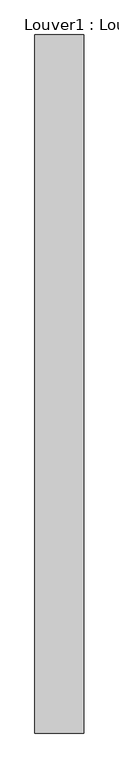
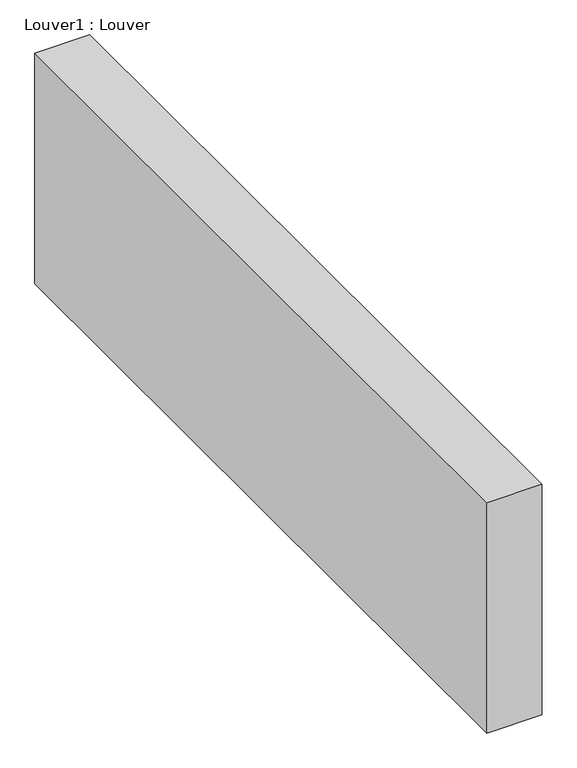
"""IFC4 building model written with IfcOpenShell, lengths in millimetres: air terminal geometry, Louver1 : Louver."""

import ifcopenshell
import ifcopenshell.guid

model = None  # the IFC model being written
_history = None  # IfcOwnerHistory: only IFC2X3 demands one
_inside = {}  # id of a spatial element -> (the spatial element, [elements in it])
_under = {}  # id of a project, library or spatial element -> (it, [spatial elements below it])
_declared = {}  # id of a project -> (the project, [libraries it declares])
_typed = {}  # id of a type object -> (the type object, [elements of that type])
_made_of = {}  # id of a material, layer set ... -> (it, [elements and type objects made of it])


def new_model(schema):
    """Start an empty IFC model of exactly this schema.

    Asked for "IFC4X3", IfcOpenShell would pick the latest addendum, in which some entities
    have other attributes; the version numbers below select the first issue.
    IFC2X3 requires an IfcOwnerHistory on every rooted entity: one is made here for all.
    """
    global model, _history
    if schema == "IFC4X3":
        model = ifcopenshell.file(schema_version=(4, 3, 0, 0))
    else:
        model = ifcopenshell.file(schema=schema)
    _inside.clear()
    _under.clear()
    _declared.clear()
    _typed.clear()
    _made_of.clear()
    _history = None
    if model.schema == "IFC2X3":
        org = make("IfcOrganization", Name="unknown")
        user = make(
            "IfcPersonAndOrganization",
            ThePerson=make("IfcPerson", FamilyName="unknown"),
            TheOrganization=org,
        )
        app = make(
            "IfcApplication",
            ApplicationDeveloper=org,
            Version="unknown",
            ApplicationFullName="unknown",
            ApplicationIdentifier="unknown",
        )
        _history = make(
            "IfcOwnerHistory",
            OwningUser=user,
            OwningApplication=app,
            ChangeAction="ADDED",
            CreationDate=0,
        )
    return model


def make(cls, **values):
    """One entity of the class cls with the attributes given. An attribute that is None is left unset."""
    return model.create_entity(
        cls, **{name: value for name, value in values.items() if value is not None}
    )


def rooted(cls, **values):
    """An entity with a GlobalId (a new one), such as an element, a storey or a relation."""
    return make(cls, GlobalId=ifcopenshell.guid.new(), OwnerHistory=_history, **values)


def si_unit(unit_type, name, prefix=None):
    """IfcSIUnit, for example si_unit("LENGTHUNIT", "METRE", prefix="MILLI")."""
    return make("IfcSIUnit", UnitType=unit_type, Prefix=prefix, Name=name)


def assignment(units):
    """IfcUnitAssignment: the units of a project."""
    return None if units is None else make("IfcUnitAssignment", Units=units)


def point(xyz):
    """IfcCartesianPoint."""
    return None if xyz is None else make("IfcCartesianPoint", Coordinates=xyz)


def direction(xyz):
    """IfcDirection."""
    return None if xyz is None else make("IfcDirection", DirectionRatios=xyz)


def frame(location, z_axis=None, x_axis=None):
    """IfcAxis2Placement3D, a coordinate frame: its origin and axes. An axis left out is left unset."""
    return make(
        "IfcAxis2Placement3D",
        Location=point(location),
        Axis=direction(z_axis),
        RefDirection=direction(x_axis),
    )


def origin():
    """The frame at (0, 0, 0) with its axes left unset."""
    return frame((0.0, 0.0, 0.0))


def place(relative_to, where):
    """IfcLocalPlacement: puts the frame where relative to a parent placement (None: the world)."""
    return make(
        "IfcLocalPlacement", PlacementRelTo=relative_to, RelativePlacement=where
    )


def context(
    kind, dimensions, precision=None, world=None, true_north=None, identifier=None
):
    """IfcGeometricRepresentationContext, for example the 3D "Model" context."""
    return make(
        "IfcGeometricRepresentationContext",
        ContextIdentifier=identifier,
        ContextType=kind,
        CoordinateSpaceDimension=dimensions,
        Precision=precision,
        WorldCoordinateSystem=world,
        TrueNorth=true_north,
    )


def project(units=None, contexts=None):
    """IfcProject with its units and contexts."""
    return rooted(
        "IfcProject",
        Name="project",
        RepresentationContexts=contexts,
        UnitsInContext=assignment(units),
    )


def spatial(cls, under=None, at=None, **own):
    """A site, building, storey or space (cls), placed at a placement, below another one or the project."""
    s = rooted(cls, ObjectPlacement=at, **own)
    if under is not None:
        _under.setdefault(under.id(), (under, []))[1].append(s)
    return s


def polyline(points):
    """IfcPolyline through the points."""
    return make("IfcPolyline", Points=[point(p) for p in points])


def outline(outer, holes=None, kind="AREA"):
    """IfcArbitraryClosedProfileDef: a profile drawn as a closed curve; with holes, ...WithVoids."""
    if holes is None:
        return make("IfcArbitraryClosedProfileDef", ProfileType=kind, OuterCurve=outer)
    return make(
        "IfcArbitraryProfileDefWithVoids",
        ProfileType=kind,
        OuterCurve=outer,
        InnerCurves=holes,
    )


def extrude(swept, where, along, depth):
    """IfcExtrudedAreaSolid: the profile swept, set in the frame where, extruded along a direction by depth."""
    return make(
        "IfcExtrudedAreaSolid",
        SweptArea=swept,
        Position=where,
        ExtrudedDirection=direction(along),
        Depth=depth,
    )


def shape(context_of_items, identifier, shape_type, items):
    """IfcShapeRepresentation: the items that make up one representation, for example the "Body"."""
    return make(
        "IfcShapeRepresentation",
        ContextOfItems=context_of_items,
        RepresentationIdentifier=identifier,
        RepresentationType=shape_type,
        Items=items,
    )


def source(mapping_origin, context_of_items, identifier, shape_type, items):
    """IfcRepresentationMap: a shape defined once, which mapped items show again and again."""
    return make(
        "IfcRepresentationMap",
        MappingOrigin=mapping_origin,
        MappedRepresentation=shape(context_of_items, identifier, shape_type, items),
    )


def transform(
    local_origin,
    x_axis=None,
    y_axis=None,
    z_axis=None,
    scale=None,
    scale2=None,
    scale3=None,
    uniform=True,
):
    """IfcCartesianTransformationOperator3D, or its non-uniform kind. x_axis, y_axis, z_axis: its Axis1, 2, 3."""
    if uniform:
        return make(
            "IfcCartesianTransformationOperator3D",
            Axis1=direction(x_axis),
            Axis2=direction(y_axis),
            LocalOrigin=point(local_origin),
            Scale=scale,
            Axis3=direction(z_axis),
        )
    return make(
        "IfcCartesianTransformationOperator3DnonUniform",
        Axis1=direction(x_axis),
        Axis2=direction(y_axis),
        LocalOrigin=point(local_origin),
        Scale=scale,
        Axis3=direction(z_axis),
        Scale2=scale2,
        Scale3=scale3,
    )


def mapped(mapping_source, mapping_target):
    """IfcMappedItem: shows the shape of a source again, moved by a transform."""
    return make(
        "IfcMappedItem", MappingSource=mapping_source, MappingTarget=mapping_target
    )


def made_of(thing, what):
    """Note that an element or type object is made of a material, layer set ...; save() writes the relation."""
    if what is not None:
        _made_of.setdefault(what.id(), (what, []))[1].append(thing)
    return thing


def element(
    cls,
    number,
    at=None,
    inside=None,
    cuts=None,
    type_object=None,
    material=None,
    context=None,
    identifier="Body",
    shape_type=None,
    held_by="IfcProductDefinitionShape",
    body=None,
    shapes=None,
    **own,
):
    """One element of the class cls, such as IfcWall. Its Tag is "e" and its number.

    at: its placement. inside: the storey or other place that contains it. cuts: it is an
    opening in that element (IfcRelVoidsElement). A single representation is given by context,
    identifier, shape_type and body (its items); several are given by shapes. held_by: the class
    of the entity that holds the representations. save() writes the other relations.
    """
    e = rooted(cls, Tag="e%d" % number, ObjectPlacement=at, **own)
    if body is not None:
        shapes = [shape(context, identifier, shape_type, body)]
    if shapes is not None:
        e.Representation = make(held_by, Representations=shapes)
    if inside is not None:
        _inside.setdefault(inside.id(), (inside, []))[1].append(e)
    if cuts is not None:
        rooted(
            "IfcRelVoidsElement", RelatingBuildingElement=cuts, RelatedOpeningElement=e
        )
    if type_object is not None:
        _typed.setdefault(type_object.id(), (type_object, []))[1].append(e)
    return made_of(e, material)


def aggregate(whole, parts):
    """IfcRelAggregates: a whole, such as a stair, and the parts it consists of."""
    return rooted("IfcRelAggregates", RelatingObject=whole, RelatedObjects=parts)


def save(model, path):
    """Write the relations noted so far, then the file.

    IfcRelAggregates (storeys below a building ...), IfcRelContainedInSpatialStructure (elements
    in a storey), IfcRelDefinesByType, IfcRelAssociatesMaterial and IfcRelDeclares: one each for
    every whole, place, type object, material and project.
    """
    for whole, parts in _under.values():
        aggregate(whole, parts)
    for where, things in _inside.values():
        rooted(
            "IfcRelContainedInSpatialStructure",
            RelatedElements=things,
            RelatingStructure=where,
        )
    for kind, things in _typed.values():
        rooted("IfcRelDefinesByType", RelatedObjects=things, RelatingType=kind)
    for what, things in _made_of.values():
        rooted("IfcRelAssociatesMaterial", RelatedObjects=things, RelatingMaterial=what)
    for by, libraries in _declared.values():
        rooted("IfcRelDeclares", RelatingContext=by, RelatedDefinitions=libraries)
    model.write(path)


def louver1_louver_e51e7086(model_context):
    return source(origin(), model_context, "Body", "SweptSolid", [
        extrude(outline(polyline([(-2623.5493706, 17322.4727817), (-2509.2493706, 17322.4727817), (-2509.2493706, 15685.1981947), (-2623.5493706, 15685.1981947), (-2623.5493706, 17322.4727817)])), frame((0.0, 0.0, 3877.2785273), z_axis=(0.0, 0.0, 1.0), x_axis=(1.0, 0.0, 0.0)), (0.0, 0.0, 1.0), 509.0422388),
    ])


if __name__ == "__main__":
    model = new_model("IFC4")
    model_context = context("Model", 3, world=origin())
    ifc_project = project(units=[si_unit("LENGTHUNIT", "METRE", prefix="MILLI")], contexts=[model_context])
    site = spatial("IfcSite", under=ifc_project)
    building = spatial("IfcBuilding", under=site)
    placement = place(None, origin())
    louver1_louver_shape = louver1_louver_e51e7086(model_context)
    element("IfcAirTerminal", 1, ObjectType="Louver1 : Louver", at=placement, inside=building, context=model_context, shape_type="MappedRepresentation", body=[
        mapped(louver1_louver_shape, transform((0.0, 0.0, 0.0), x_axis=(1.0, 0.0, 0.0), y_axis=(0.0, 1.0, 0.0), z_axis=(0.0, 0.0, 1.0))),
    ])
    save(model, "model.ifc")
